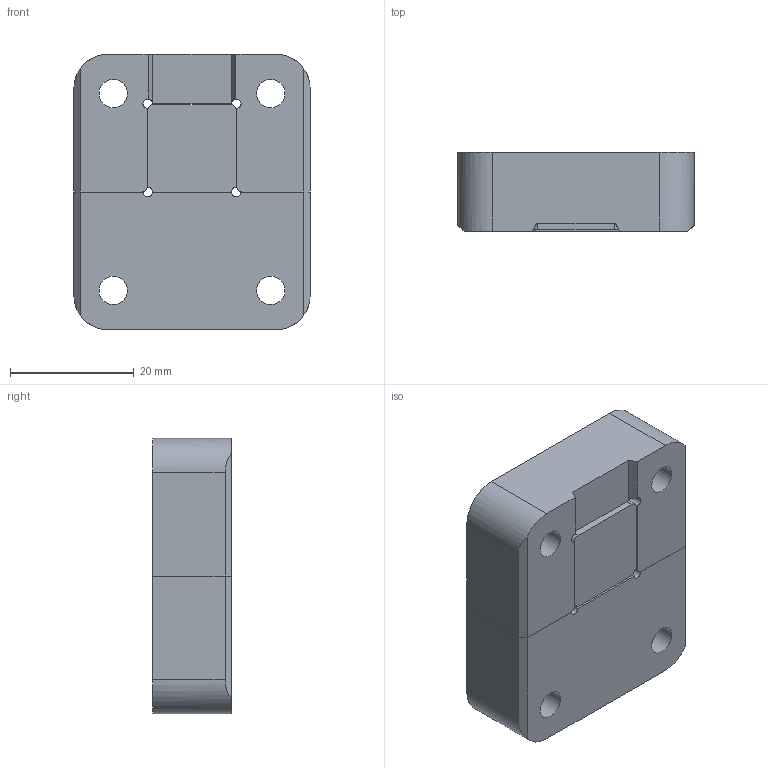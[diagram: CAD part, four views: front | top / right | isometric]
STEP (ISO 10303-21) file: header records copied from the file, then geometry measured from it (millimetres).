
FILE_DESCRIPTION(/* description */ ('STEP AP214'),/* implementation_level */ '2;1');
FILE_NAME(/* name */ 'BGS1500',/* time_stamp */ '2024-12-12T16:57:42+01:00',/* author */ ('License CC BY-ND 4.0'),/* organization */ ('CADENAS'),/* preprocessor_version */ 'ST-DEVELOPER v19.3',/* originating_system */ 'PARTsolutions',/* authorisation */ ' ');
FILE_SCHEMA (('AUTOMOTIVE_DESIGN {1 0 10303 214 3 1 1}'));
Length unit declared in the file: millimetre
Products named in the file (3): BGS1500; BGS1500M; BGS1500F
Assembly tree (2 placements, depth 2):
  BGS1500
    BGS1500M
    BGS1500F
Bounding box: 38.1 x 12.7 x 44.45 mm (x, y, z)
Volume: 19454.3 mm3; surface area: 7759.3 mm2
Topology: 2 solids, 2 shells, 54 faces, 138 edges, 92 vertices
Faces by surface type: plane 34, cylinder 20
Full cylindrical faces by diameter (mm): 4.572 x4, 7.95 x4
Entity records: 1702 total; most frequent: DIRECTION 292, CARTESIAN_POINT 279, ORIENTED_EDGE 260, EDGE_CURVE 130, AXIS2_PLACEMENT_3D 105, VERTEX_POINT 92, LINE 82, VECTOR 82
